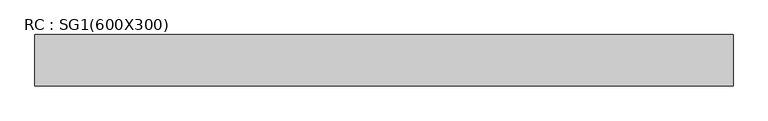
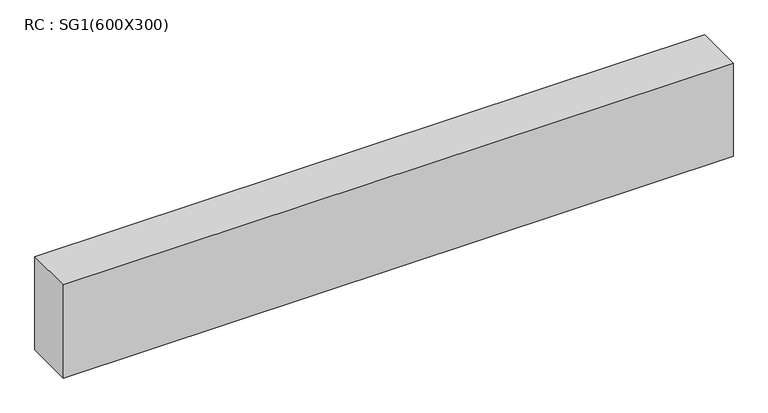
"""IFC4 building model written with IfcOpenShell, lengths in millimetres: beam geometry, RC : SG1(600X300)."""

from ifc_helpers import new_model, si_unit, frame, origin, place, context, project, spatial, polyline, outline, extrude, source, transform, mapped, element, save


def rc_sg1_600x300_97302bae(model_context):
    return source(origin(), model_context, "Body", "SweptSolid", [
        extrude(outline(polyline([(2039.1145552, 150.0), (2039.1145552, -150.0), (-2044.9600265, -150.0), (-2044.9600265, 150.0), (2039.1145552, 150.0)])), frame((0.0, 0.0, -300.0), z_axis=(0.0, 0.0, 1.0), x_axis=(1.0, 0.0, 0.0)), (0.0, 0.0, 1.0), 600.0),
    ])


if __name__ == "__main__":
    model = new_model("IFC4")
    model_context = context("Model", 3, world=origin())
    ifc_project = project(units=[si_unit("LENGTHUNIT", "METRE", prefix="MILLI")], contexts=[model_context])
    site = spatial("IfcSite", under=ifc_project)
    building = spatial("IfcBuilding", under=site)
    placement = place(None, origin())
    rc_sg1_600x300_shape = rc_sg1_600x300_97302bae(model_context)
    element("IfcBeam", 1, ObjectType="RC : SG1(600X300)", at=placement, inside=building, context=model_context, shape_type="MappedRepresentation", body=[
        mapped(rc_sg1_600x300_shape, transform((0.0, 0.0, 0.0), x_axis=(1.0, 0.0, 0.0), y_axis=(0.0, 1.0, 0.0), z_axis=(0.0, 0.0, 1.0))),
    ])
    save(model, "model.ifc")
